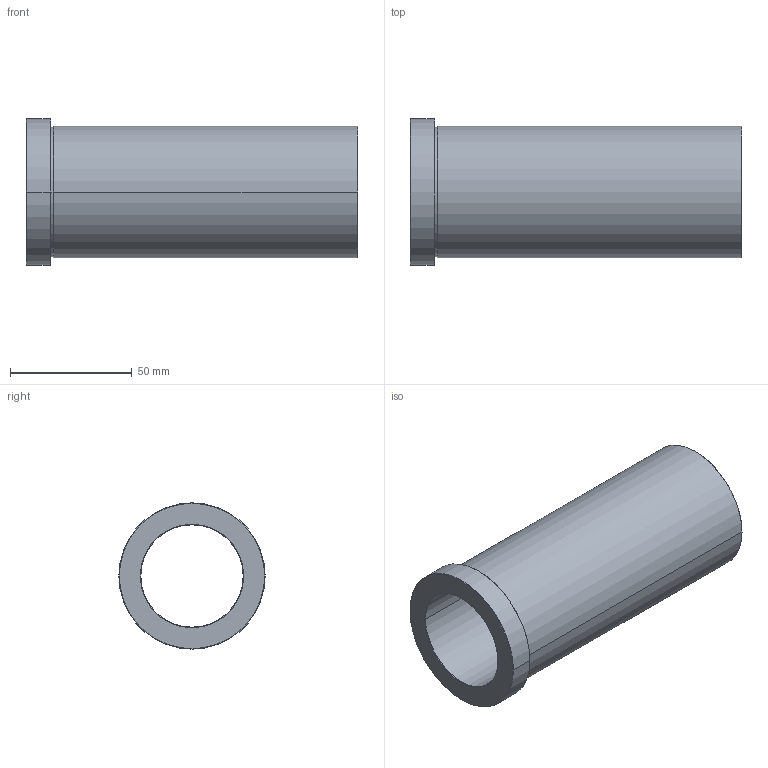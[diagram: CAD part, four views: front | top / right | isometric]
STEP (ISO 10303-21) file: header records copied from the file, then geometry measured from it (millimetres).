
FILE_DESCRIPTION (( 'STEP AP214' ), '1' );
FILE_NAME ('R03_136x42.STEP', '2015-03-05T14:48:33', ( 'TGL' ), ( '' ), 'SwSTEP 2.0', 'SolidWorks 2011', '' );
FILE_SCHEMA (( 'AUTOMOTIVE_DESIGN' ));
Length unit declared in the file: millimetre
Products named in the file (1): R03_136x42
Bounding box: 136 x 60 x 60 mm (x, y, z)
Volume: 127236.7 mm3; surface area: 43830.5 mm2
Topology: 1 solids, 1 shells, 23 faces, 46 edges, 26 vertices
Faces by surface type: cone 10, cylinder 8, plane 3, torus 2
Entity records: 700 total; most frequent: DIRECTION 122, CARTESIAN_POINT 96, ORIENTED_EDGE 92, AXIS2_PLACEMENT_3D 52, EDGE_CURVE 46, CIRCLE 28, VERTEX_POINT 26, EDGE_LOOP 26
